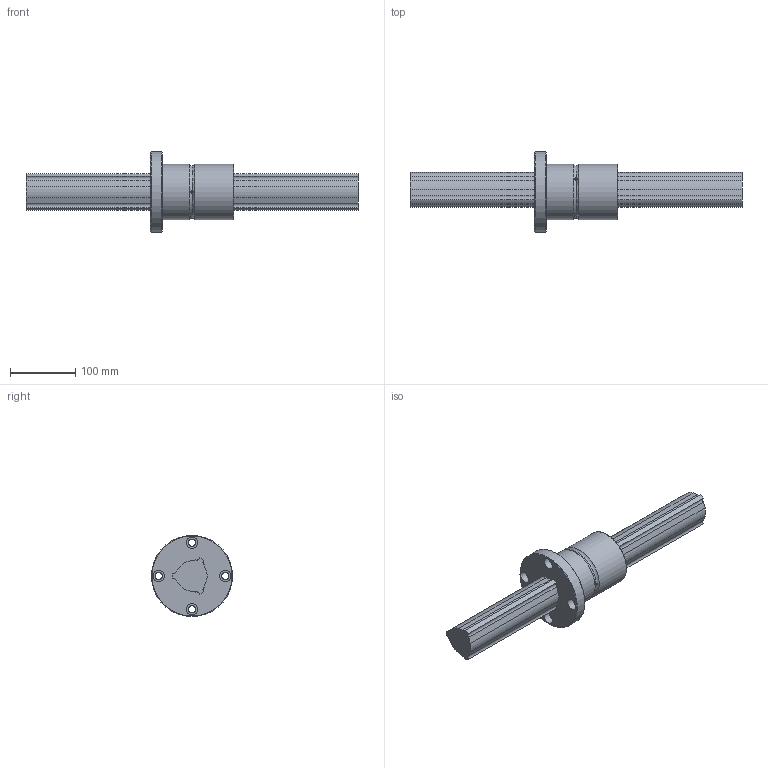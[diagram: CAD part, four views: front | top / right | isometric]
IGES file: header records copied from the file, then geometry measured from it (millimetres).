
Start section: Data from Parasolid IGES Translator 26.0.171, Copyright(c) 2006 Siemens PLM Software. All Rights Reserved.
Global section: file name: LBF60+508L(508190.50).igs; native system: By Siemens PLM Incorporated; preprocessor: XPlus GENERIC/IGES 26.0.171; author: Noname; organization: Noname; date: 20240528.034115; units: millimetre
Bounding box: 508 x 124 x 124 mm (x, y, z)
Surface area: 174131.7 mm2 (no closed solid volume)
Topology: 0 solids, 0 shells, 71 faces, 356 edges, 336 vertices
Faces by surface type: revolution 47, extrusion 24
